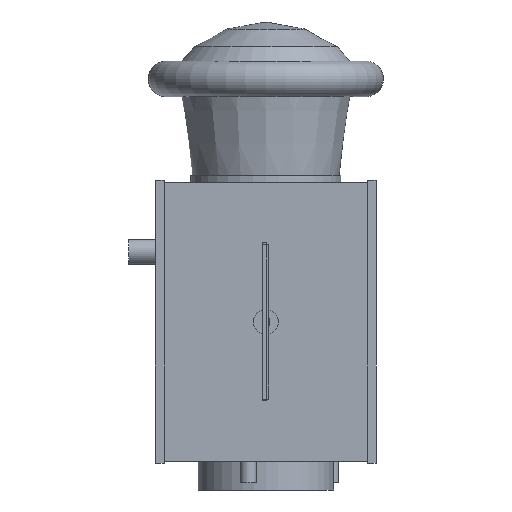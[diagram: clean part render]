
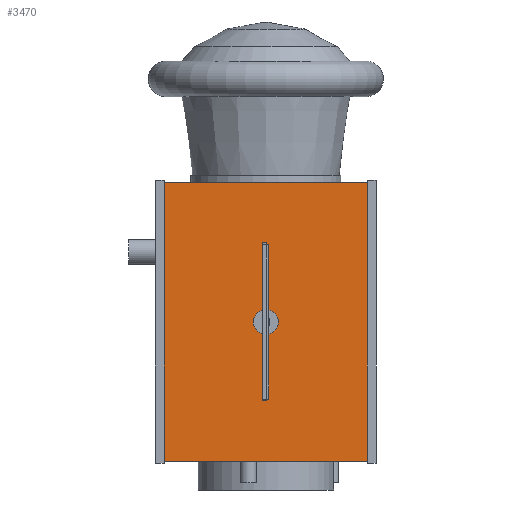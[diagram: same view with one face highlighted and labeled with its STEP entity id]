
A CAD part, left-side view. The second image highlights one B-rep face of the part: STEP entity #3470.
In plain terms, the highlighted planar face has unit normal (-1, 0, 0).
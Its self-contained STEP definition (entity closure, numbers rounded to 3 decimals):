
#3470 = ADVANCED_FACE('',(#3471),#3485,.F.);
#3471 = FACE_BOUND('',#3472,.F.);
#3472 = EDGE_LOOP('',(#3473,#3508,#3536,#3564));
#3473 = ORIENTED_EDGE('',*,*,#3474,.F.);
#3474 = EDGE_CURVE('',#3475,#3477,#3479,.T.);
#3475 = VERTEX_POINT('',#3476);
#3476 = CARTESIAN_POINT('',(-0.296,-0.296,-0.785));
#3477 = VERTEX_POINT('',#3478);
#3478 = CARTESIAN_POINT('',(-0.296,-0.296,0.));
#3479 = SURFACE_CURVE('',#3480,(#3484,#3496),.PCURVE_S1.);
#3480 = LINE('',#3481,#3482);
#3481 = CARTESIAN_POINT('',(-0.296,-0.296,-0.785));
#3482 = VECTOR('',#3483,1.);
#3483 = DIRECTION('',(0.,0.,1.));
#3484 = PCURVE('',#3485,#3490);
#3485 = PLANE('',#3486);
#3486 = AXIS2_PLACEMENT_3D('',#3487,#3488,#3489);
#3487 = CARTESIAN_POINT('',(-0.296,-0.296,-0.785));
#3488 = DIRECTION('',(1.,0.,0.));
#3489 = DIRECTION('',(0.,0.,1.));
#3490 = DEFINITIONAL_REPRESENTATION('',(#3491),#3495);
#3491 = LINE('',#3492,#3493);
#3492 = CARTESIAN_POINT('',(0.,0.));
#3493 = VECTOR('',#3494,1.);
#3494 = DIRECTION('',(1.,0.));
#3495 = ( GEOMETRIC_REPRESENTATION_CONTEXT(2) 
PARAMETRIC_REPRESENTATION_CONTEXT() REPRESENTATION_CONTEXT('2D SPACE',''
  ) );
#3496 = PCURVE('',#3497,#3502);
#3497 = PLANE('',#3498);
#3498 = AXIS2_PLACEMENT_3D('',#3499,#3500,#3501);
#3499 = CARTESIAN_POINT('',(-0.296,-0.296,-0.785));
#3500 = DIRECTION('',(0.,1.,0.));
#3501 = DIRECTION('',(0.,0.,1.));
#3502 = DEFINITIONAL_REPRESENTATION('',(#3503),#3507);
#3503 = LINE('',#3504,#3505);
#3504 = CARTESIAN_POINT('',(0.,0.));
#3505 = VECTOR('',#3506,1.);
#3506 = DIRECTION('',(1.,0.));
#3507 = ( GEOMETRIC_REPRESENTATION_CONTEXT(2) 
PARAMETRIC_REPRESENTATION_CONTEXT() REPRESENTATION_CONTEXT('2D SPACE',''
  ) );
#3508 = ORIENTED_EDGE('',*,*,#3509,.T.);
#3509 = EDGE_CURVE('',#3475,#3510,#3512,.T.);
#3510 = VERTEX_POINT('',#3511);
#3511 = CARTESIAN_POINT('',(-0.296,0.296,-0.785));
#3512 = SURFACE_CURVE('',#3513,(#3517,#3524),.PCURVE_S1.);
#3513 = LINE('',#3514,#3515);
#3514 = CARTESIAN_POINT('',(-0.296,-0.296,-0.785));
#3515 = VECTOR('',#3516,1.);
#3516 = DIRECTION('',(0.,1.,0.));
#3517 = PCURVE('',#3485,#3518);
#3518 = DEFINITIONAL_REPRESENTATION('',(#3519),#3523);
#3519 = LINE('',#3520,#3521);
#3520 = CARTESIAN_POINT('',(0.,0.));
#3521 = VECTOR('',#3522,1.);
#3522 = DIRECTION('',(0.,-1.));
#3523 = ( GEOMETRIC_REPRESENTATION_CONTEXT(2) 
PARAMETRIC_REPRESENTATION_CONTEXT() REPRESENTATION_CONTEXT('2D SPACE',''
  ) );
#3524 = PCURVE('',#3525,#3530);
#3525 = PLANE('',#3526);
#3526 = AXIS2_PLACEMENT_3D('',#3527,#3528,#3529);
#3527 = CARTESIAN_POINT('',(-0.296,-0.296,-0.785));
#3528 = DIRECTION('',(0.,0.,1.));
#3529 = DIRECTION('',(1.,0.,0.));
#3530 = DEFINITIONAL_REPRESENTATION('',(#3531),#3535);
#3531 = LINE('',#3532,#3533);
#3532 = CARTESIAN_POINT('',(0.,0.));
#3533 = VECTOR('',#3534,1.);
#3534 = DIRECTION('',(0.,1.));
#3535 = ( GEOMETRIC_REPRESENTATION_CONTEXT(2) 
PARAMETRIC_REPRESENTATION_CONTEXT() REPRESENTATION_CONTEXT('2D SPACE',''
  ) );
#3536 = ORIENTED_EDGE('',*,*,#3537,.T.);
#3537 = EDGE_CURVE('',#3510,#3538,#3540,.T.);
#3538 = VERTEX_POINT('',#3539);
#3539 = CARTESIAN_POINT('',(-0.296,0.296,0.));
#3540 = SURFACE_CURVE('',#3541,(#3545,#3552),.PCURVE_S1.);
#3541 = LINE('',#3542,#3543);
#3542 = CARTESIAN_POINT('',(-0.296,0.296,-0.785));
#3543 = VECTOR('',#3544,1.);
#3544 = DIRECTION('',(0.,0.,1.));
#3545 = PCURVE('',#3485,#3546);
#3546 = DEFINITIONAL_REPRESENTATION('',(#3547),#3551);
#3547 = LINE('',#3548,#3549);
#3548 = CARTESIAN_POINT('',(0.,-0.591));
#3549 = VECTOR('',#3550,1.);
#3550 = DIRECTION('',(1.,0.));
#3551 = ( GEOMETRIC_REPRESENTATION_CONTEXT(2) 
PARAMETRIC_REPRESENTATION_CONTEXT() REPRESENTATION_CONTEXT('2D SPACE',''
  ) );
#3552 = PCURVE('',#3553,#3558);
#3553 = PLANE('',#3554);
#3554 = AXIS2_PLACEMENT_3D('',#3555,#3556,#3557);
#3555 = CARTESIAN_POINT('',(-0.296,0.296,-0.785));
#3556 = DIRECTION('',(0.,1.,0.));
#3557 = DIRECTION('',(0.,0.,1.));
#3558 = DEFINITIONAL_REPRESENTATION('',(#3559),#3563);
#3559 = LINE('',#3560,#3561);
#3560 = CARTESIAN_POINT('',(0.,0.));
#3561 = VECTOR('',#3562,1.);
#3562 = DIRECTION('',(1.,0.));
#3563 = ( GEOMETRIC_REPRESENTATION_CONTEXT(2) 
PARAMETRIC_REPRESENTATION_CONTEXT() REPRESENTATION_CONTEXT('2D SPACE',''
  ) );
#3564 = ORIENTED_EDGE('',*,*,#3565,.F.);
#3565 = EDGE_CURVE('',#3477,#3538,#3566,.T.);
#3566 = SURFACE_CURVE('',#3567,(#3571,#3578),.PCURVE_S1.);
#3567 = LINE('',#3568,#3569);
#3568 = CARTESIAN_POINT('',(-0.296,-0.296,0.));
#3569 = VECTOR('',#3570,1.);
#3570 = DIRECTION('',(0.,1.,0.));
#3571 = PCURVE('',#3485,#3572);
#3572 = DEFINITIONAL_REPRESENTATION('',(#3573),#3577);
#3573 = LINE('',#3574,#3575);
#3574 = CARTESIAN_POINT('',(0.785,0.));
#3575 = VECTOR('',#3576,1.);
#3576 = DIRECTION('',(0.,-1.));
#3577 = ( GEOMETRIC_REPRESENTATION_CONTEXT(2) 
PARAMETRIC_REPRESENTATION_CONTEXT() REPRESENTATION_CONTEXT('2D SPACE',''
  ) );
#3578 = PCURVE('',#3579,#3584);
#3579 = PLANE('',#3580);
#3580 = AXIS2_PLACEMENT_3D('',#3581,#3582,#3583);
#3581 = CARTESIAN_POINT('',(-0.296,-0.296,0.));
#3582 = DIRECTION('',(0.,0.,1.));
#3583 = DIRECTION('',(1.,0.,0.));
#3584 = DEFINITIONAL_REPRESENTATION('',(#3585),#3589);
#3585 = LINE('',#3586,#3587);
#3586 = CARTESIAN_POINT('',(0.,0.));
#3587 = VECTOR('',#3588,1.);
#3588 = DIRECTION('',(0.,1.));
#3589 = ( GEOMETRIC_REPRESENTATION_CONTEXT(2) 
PARAMETRIC_REPRESENTATION_CONTEXT() REPRESENTATION_CONTEXT('2D SPACE',''
  ) );
